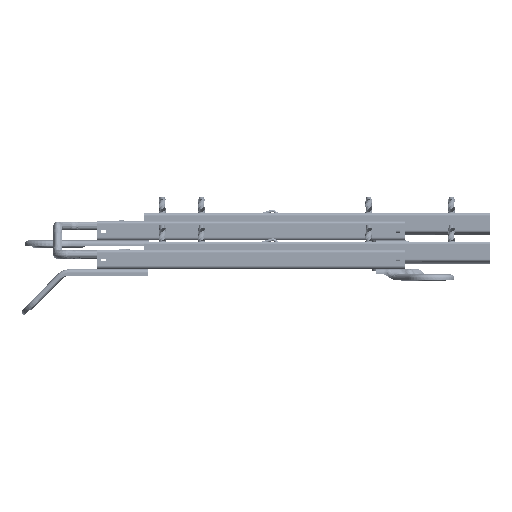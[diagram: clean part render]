
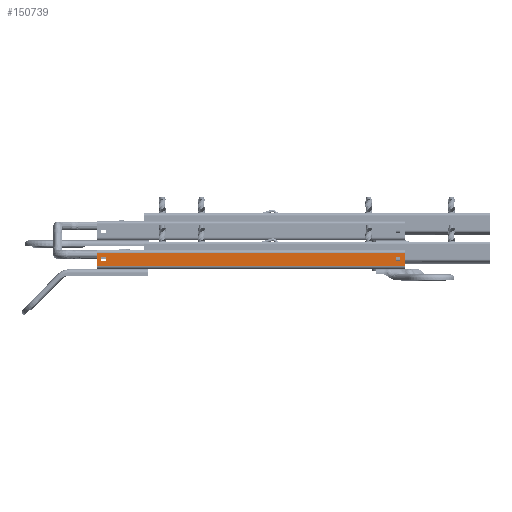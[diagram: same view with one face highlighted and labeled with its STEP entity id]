
A CAD part, front view. The second image highlights one B-rep face of the part: STEP entity #150739.
In plain terms, the highlighted planar face has unit normal (0, -1, 0).
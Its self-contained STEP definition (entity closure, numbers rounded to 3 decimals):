
#150215=CARTESIAN_POINT('Vertex',(796.019,-736.003,269.395)) ;
#150218=CARTESIAN_POINT('Line Origine',(973.019,-736.001,269.395)) ;
#150222=CARTESIAN_POINT('Vertex',(1150.019,-735.999,269.395)) ;
#150641=CARTESIAN_POINT('Axis2P3D Location',(796.019,-736.003,269.395)) ;
#150646=CARTESIAN_POINT('Line Origine',(796.019,-736.003,261.895)) ;
#150650=CARTESIAN_POINT('Vertex',(796.019,-736.003,254.395)) ;
#150653=CARTESIAN_POINT('Line Origine',(973.019,-736.001,254.395)) ;
#150657=CARTESIAN_POINT('Vertex',(1150.019,-735.999,254.395)) ;
#150660=CARTESIAN_POINT('Line Origine',(1150.019,-735.999,261.895)) ;
#150671=CARTESIAN_POINT('Line Origine',(804.019,-736.003,264.395)) ;
#150675=CARTESIAN_POINT('Vertex',(806.519,-736.003,264.395)) ;
#150677=CARTESIAN_POINT('Vertex',(801.519,-736.003,264.395)) ;
#150680=CARTESIAN_POINT('Line Origine',(806.519,-736.003,261.895)) ;
#150684=CARTESIAN_POINT('Vertex',(806.519,-736.003,259.395)) ;
#150687=CARTESIAN_POINT('Line Origine',(804.019,-736.003,259.395)) ;
#150691=CARTESIAN_POINT('Vertex',(801.519,-736.003,259.395)) ;
#150694=CARTESIAN_POINT('Line Origine',(801.519,-736.003,261.895)) ;
#150705=CARTESIAN_POINT('Line Origine',(1142.019,-735.999,264.395)) ;
#150709=CARTESIAN_POINT('Vertex',(1144.519,-735.999,264.395)) ;
#150711=CARTESIAN_POINT('Vertex',(1139.519,-735.999,264.395)) ;
#150714=CARTESIAN_POINT('Line Origine',(1144.519,-735.999,261.895)) ;
#150718=CARTESIAN_POINT('Vertex',(1144.519,-735.999,259.395)) ;
#150721=CARTESIAN_POINT('Line Origine',(1142.019,-735.999,259.395)) ;
#150725=CARTESIAN_POINT('Vertex',(1139.519,-735.999,259.395)) ;
#150728=CARTESIAN_POINT('Line Origine',(1139.519,-735.999,261.895)) ;
#150219=DIRECTION('Vector Direction',(1.,0.,0.)) ;
#150642=DIRECTION('Axis2P3D Direction',(0.,-1.,0.)) ;
#150643=DIRECTION('Axis2P3D XDirection',(0.,0.,-1.)) ;
#150647=DIRECTION('Vector Direction',(0.,0.,1.)) ;
#150654=DIRECTION('Vector Direction',(1.,0.,0.)) ;
#150661=DIRECTION('Vector Direction',(0.,0.,1.)) ;
#150672=DIRECTION('Vector Direction',(1.,0.,0.)) ;
#150681=DIRECTION('Vector Direction',(0.,0.,-1.)) ;
#150688=DIRECTION('Vector Direction',(-1.,0.,0.)) ;
#150695=DIRECTION('Vector Direction',(0.,0.,1.)) ;
#150706=DIRECTION('Vector Direction',(1.,0.,0.)) ;
#150715=DIRECTION('Vector Direction',(0.,0.,1.)) ;
#150722=DIRECTION('Vector Direction',(1.,0.,0.)) ;
#150729=DIRECTION('Vector Direction',(0.,0.,1.)) ;
#150644=AXIS2_PLACEMENT_3D('Plane Axis2P3D',#150641,#150642,#150643) ;
#150666=ORIENTED_EDGE('',*,*,#150224,.F.) ;
#150667=ORIENTED_EDGE('',*,*,#150652,.F.) ;
#150668=ORIENTED_EDGE('',*,*,#150659,.T.) ;
#150669=ORIENTED_EDGE('',*,*,#150664,.T.) ;
#150700=ORIENTED_EDGE('',*,*,#150679,.F.) ;
#150701=ORIENTED_EDGE('',*,*,#150686,.F.) ;
#150702=ORIENTED_EDGE('',*,*,#150693,.F.) ;
#150703=ORIENTED_EDGE('',*,*,#150698,.F.) ;
#150734=ORIENTED_EDGE('',*,*,#150713,.F.) ;
#150735=ORIENTED_EDGE('',*,*,#150720,.F.) ;
#150736=ORIENTED_EDGE('',*,*,#150727,.F.) ;
#150737=ORIENTED_EDGE('',*,*,#150732,.F.) ;
#150704=FACE_BOUND('',#150699,.T.) ;
#150738=FACE_BOUND('',#150733,.T.) ;
#150220=VECTOR('Line Direction',#150219,1.) ;
#150648=VECTOR('Line Direction',#150647,1.) ;
#150655=VECTOR('Line Direction',#150654,1.) ;
#150662=VECTOR('Line Direction',#150661,1.) ;
#150673=VECTOR('Line Direction',#150672,1.) ;
#150682=VECTOR('Line Direction',#150681,1.) ;
#150689=VECTOR('Line Direction',#150688,1.) ;
#150696=VECTOR('Line Direction',#150695,1.) ;
#150707=VECTOR('Line Direction',#150706,1.) ;
#150716=VECTOR('Line Direction',#150715,1.) ;
#150723=VECTOR('Line Direction',#150722,1.) ;
#150730=VECTOR('Line Direction',#150729,1.) ;
#150739=ADVANCED_FACE('Product3.1\\LG1611510210-LG1611510310-LG1611510320_AllCATPart.1\\Product1_AllCATPart.2\\Product2.2\\Product2.1.4_AllCATPart.1\\M401-0101_AllCATPart.1\\Product1.1\\\X2\53F36ED18F68603B6210\X0\\\Product6_AllCATPart.1\\\X2\6B279A6C53EF53477EA7\X0\\\Product3.1\\Product6_AllCATPart.1\\Product3.1\\Product1_AllCATPart.2\\Product2.1\\XA07 ASSY_AllCATPart.1.2.3.4.1\\Product1_AllCATPart.1\\Product2.1\\Product1_AllCATPart.2\\Product1.1\\Product1.1\\Product1.1\\Product2.2\\Product1_AllCATPart.1\\Product1_AllCATPart.1\\huagui.1\\\X2\51E04F554F53\X0\.2199',(#150670,#150704,#150738),#150645,.T.) ;
#150224=EDGE_CURVE('',#150216,#150223,#150221,.T.) ;
#150652=EDGE_CURVE('',#150651,#150216,#150649,.T.) ;
#150659=EDGE_CURVE('',#150651,#150658,#150656,.T.) ;
#150664=EDGE_CURVE('',#150658,#150223,#150663,.T.) ;
#150679=EDGE_CURVE('',#150676,#150678,#150674,.F.) ;
#150686=EDGE_CURVE('',#150685,#150676,#150683,.F.) ;
#150693=EDGE_CURVE('',#150692,#150685,#150690,.F.) ;
#150698=EDGE_CURVE('',#150678,#150692,#150697,.F.) ;
#150713=EDGE_CURVE('',#150710,#150712,#150708,.F.) ;
#150720=EDGE_CURVE('',#150719,#150710,#150717,.T.) ;
#150727=EDGE_CURVE('',#150726,#150719,#150724,.T.) ;
#150732=EDGE_CURVE('',#150712,#150726,#150731,.F.) ;
#150665=EDGE_LOOP('',(#150666,#150667,#150668,#150669)) ;
#150699=EDGE_LOOP('',(#150700,#150701,#150702,#150703)) ;
#150733=EDGE_LOOP('',(#150734,#150735,#150736,#150737)) ;
#150670=FACE_OUTER_BOUND('',#150665,.T.) ;
#150221=LINE('Line',#150218,#150220) ;
#150649=LINE('Line',#150646,#150648) ;
#150656=LINE('Line',#150653,#150655) ;
#150663=LINE('Line',#150660,#150662) ;
#150674=LINE('Line',#150671,#150673) ;
#150683=LINE('Line',#150680,#150682) ;
#150690=LINE('Line',#150687,#150689) ;
#150697=LINE('Line',#150694,#150696) ;
#150708=LINE('Line',#150705,#150707) ;
#150717=LINE('Line',#150714,#150716) ;
#150724=LINE('Line',#150721,#150723) ;
#150731=LINE('Line',#150728,#150730) ;
#150645=PLANE('',#150644) ;
#150216=VERTEX_POINT('',#150215) ;
#150223=VERTEX_POINT('',#150222) ;
#150651=VERTEX_POINT('',#150650) ;
#150658=VERTEX_POINT('',#150657) ;
#150676=VERTEX_POINT('',#150675) ;
#150678=VERTEX_POINT('',#150677) ;
#150685=VERTEX_POINT('',#150684) ;
#150692=VERTEX_POINT('',#150691) ;
#150710=VERTEX_POINT('',#150709) ;
#150712=VERTEX_POINT('',#150711) ;
#150719=VERTEX_POINT('',#150718) ;
#150726=VERTEX_POINT('',#150725) ;
